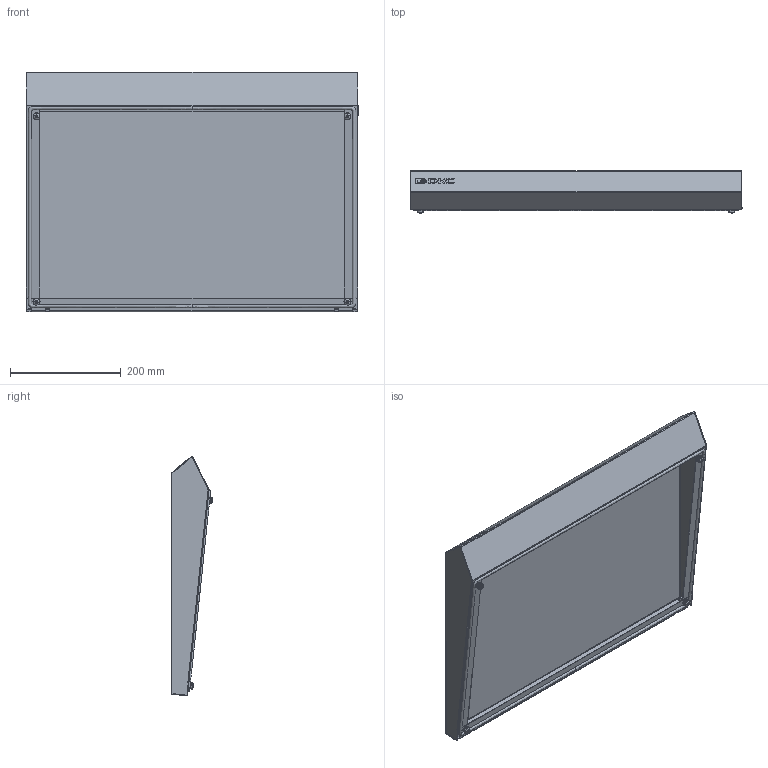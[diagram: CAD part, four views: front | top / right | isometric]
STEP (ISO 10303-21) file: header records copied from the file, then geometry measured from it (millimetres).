
FILE_DESCRIPTION (( 'STEP AP214' ), '1' );
FILE_NAME ('R5NTT064.STEP', '2025-06-25T13:57:46', ( '' ), ( '' ), 'SwSTEP 2.0', 'SolidWorks 2022', '' );
FILE_SCHEMA (( 'AUTOMOTIVE_DESIGN' ));
Length unit declared in the file: millimetre
Products named in the file (6): M6x16 DIN 7985 Torx cl.8,8 Zinc_stright; RB.3481.00.01.0_-16; M6 MGS-MPO-0635_straight 1,5; 6 DIN 125 A Plastic; PF 3x6 R5NTT_-16; R5NTT064
Assembly tree (14 placements, depth 2):
  R5NTT064
    RB.3481.00.01.0_-16
    M6 MGS-MPO-0635_straight 1,5  x4
    PF 3x6 R5NTT_-16
    6 DIN 125 A Plastic  x4
    M6x16 DIN 7985 Torx cl.8,8 Zinc_stright  x4
Bounding box: 600 x 75.9 x 432.95 mm (x, y, z)
Volume: 513333.8 mm3; surface area: 841302.5 mm2
Topology: 14 solids, 14 shells, 599 faces, 1451 edges, 852 vertices
Faces by surface type: plane 257, cylinder 180, bspline 58, sphere 56, torus 24, cone 24
Entity records: 13984 total; most frequent: CARTESIAN_POINT 5003, ORIENTED_EDGE 1686, DIRECTION 1447, EDGE_CURVE 843, LINE 581, VECTOR 581, VERTEX_POINT 531, AXIS2_PLACEMENT_3D 433
